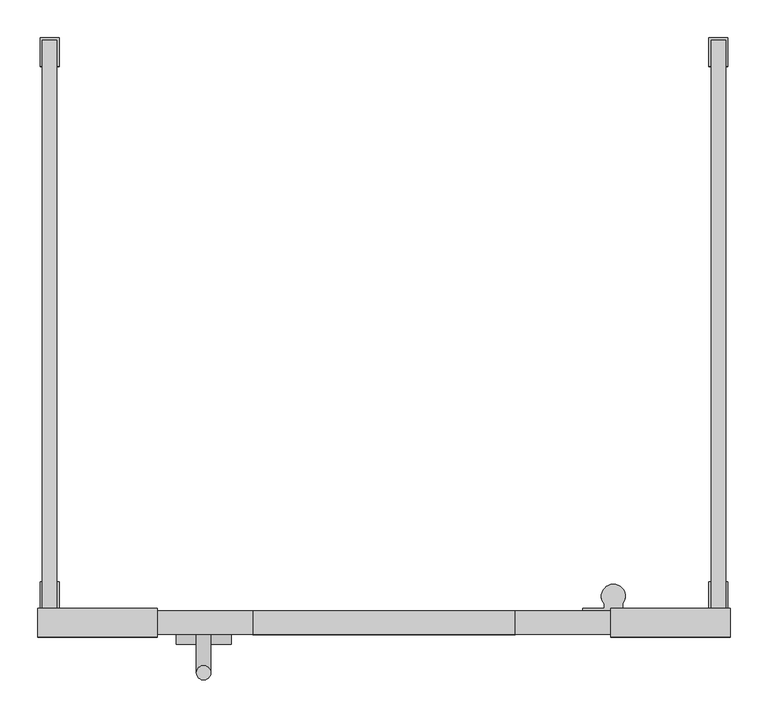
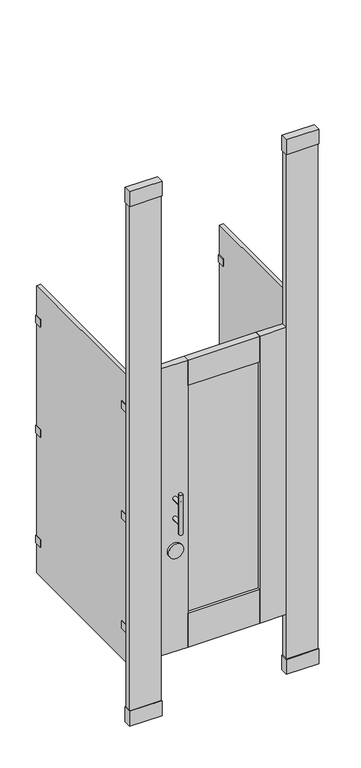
"""IFC4 building model written with IfcOpenShell, lengths in millimetres: proxy geometry, Toilet-Partition_Ironwood-Mfg_High-Pressure-Laminate : High Pressure Laminate - Floor to Ceiling - Captured Panel Door."""

from ifc_helpers import new_model, si_unit, point, frame, frame_2d, origin, origin_with_axes, place, context, project, spatial, polyline, circle_curve, ellipse_curve, trimmed, segment, composite_curve, outline, extrude, source, transform, mapped, element, save
from ifc_brep_helpers import plane_surface, cylinder_surface, advanced_brep


def specialty_equipment_d96a6f38(model_context):
    return source(origin(), model_context, "Body", "SolidModel", [
        extrude(outline(polyline([(542.925, -796.925), (542.925, -758.825), (701.675, -758.825), (701.675, -796.925), (542.925, -796.925)])), frame((0.0, 0.0, 2667.0), z_axis=(0.0, 0.0, 1.0), x_axis=(1.0, 0.0, 0.0)), (0.0, 0.0, 1.0), 76.1999999),
        extrude(outline(polyline([(701.675, -758.825), (701.675, -796.925), (542.925, -796.925), (542.925, -758.825), (701.675, -758.825)])), origin_with_axes(), (0.0, 0.0, 1.0), 76.2),
        extrude(outline(polyline([(698.5, -762.0), (698.5, -793.75), (546.1, -793.75), (546.1, -762.0), (698.5, -762.0)])), origin_with_axes(), (0.0, 0.0, 1.0), 2667.0),
        extrude(outline(polyline([(-60.325, -796.925), (-219.075, -796.925), (-219.075, -758.825), (-60.325, -758.825), (-60.325, -796.925)])), frame((0.0, 0.0, 2667.0), z_axis=(0.0, 0.0, 1.0), x_axis=(1.0, 0.0, 0.0)), (0.0, 0.0, 1.0), 76.1999999),
        extrude(outline(polyline([(-219.075, -758.825), (-60.325, -758.825), (-60.325, -796.925), (-219.075, -796.925), (-219.075, -758.825)])), origin_with_axes(), (0.0, 0.0, 1.0), 76.2),
        extrude(outline(polyline([(-215.9, -762.0), (-63.5, -762.0), (-63.5, -793.75), (-215.9, -793.75), (-215.9, -762.0)])), origin_with_axes(), (0.0, 0.0, 1.0), 2667.0),
        extrude(outline(polyline([(415.925, -781.1988281), (66.675, -781.1988281), (66.675, -774.5511719), (415.925, -774.5511719), (415.925, -781.1988281)])), frame((0.0, 0.0, 479.425), z_axis=(0.0, 0.0, 1.0), x_axis=(1.0, 0.0, 0.0)), (0.0, 0.0, 1.0), 1168.4),
        extrude(outline(polyline([(66.675, -762.0), (66.675, -793.75), (-63.5, -793.75), (-63.5, -762.0), (66.675, -762.0)])), frame((0.0, 0.0, 304.8), z_axis=(0.0, 0.0, 1.0), x_axis=(1.0, 0.0, 0.0)), (0.0, 0.0, 1.0), 1473.2),
        extrude(outline(polyline([(415.925, -762.0), (546.1, -762.0), (546.1, -793.75), (415.925, -793.75), (415.925, -762.0)])), frame((0.0, 0.0, 304.8), z_axis=(0.0, 0.0, 1.0), x_axis=(1.0, 0.0, 0.0)), (0.0, 0.0, 1.0), 1473.2),
        extrude(outline(polyline([(415.925, -762.0), (415.925, -793.75), (66.675, -793.75), (66.675, -762.0), (415.925, -762.0)])), frame((0.0, 0.0, 1647.825), z_axis=(0.0, 0.0, 1.0), x_axis=(1.0, 0.0, 0.0)), (0.0, 0.0, 1.0), 130.175),
        extrude(outline(polyline([(415.925, -762.0), (415.925, -793.75), (66.675, -793.75), (66.675, -762.0), (415.925, -762.0)])), frame((0.0, 0.0, 304.8), z_axis=(0.0, 0.0, 1.0), x_axis=(1.0, 0.0, 0.0)), (0.0, 0.0, 1.0), 174.625),
        extrude(outline(composite_curve([segment(trimmed(circle_curve(frame_2d((827.0875, 1.5875)), 36.5125), [point((827.0875, -34.925))], [point((827.0875, 38.1))], False, "CARTESIAN"), True, "CONTINUOUS"), segment(trimmed(circle_curve(frame_2d((827.0875, 1.5875)), 36.5125), [point((827.0875, 38.1))], [point((827.0875, -34.925))], False, "CARTESIAN"), True, "CONTINUOUS")], self_intersect=False)), frame((0.0, -806.45, 0.0), z_axis=(0.0, 1.0, 0.0), x_axis=(0.0, 0.0, 1.0)), (0.0, 0.0, 1.0), 12.7),
        advanced_brep(
        [(-7.9375, -793.75, 1092.2), (11.1125, -793.75, 1092.2), (-7.9375, -793.75, 990.6), (11.1125, -793.75, 990.6), (11.1125, -844.55, 1092.2), (-7.9375, -844.55, 1092.2), (11.1125, -844.55, 990.6), (-7.9375, -844.55, 990.6), (-7.9375, -844.55, 1143.0), (11.1125, -844.55, 1143.0), (-7.9375, -844.55, 939.8), (11.1125, -844.55, 939.8)],
        [
            (0, 1, circle_curve(frame((1.5875, -793.75, 1092.2), z_axis=(0.0, 1.0, 0.0), x_axis=(1.0, 0.0, 0.0)), 9.525)),
            (1, 0, circle_curve(frame((1.5875, -793.75, 1092.2), z_axis=(0.0, 1.0, 0.0), x_axis=(1.0, 0.0, 0.0)), 9.525)),
            (2, 3, circle_curve(frame((1.5875, -793.75, 990.6), z_axis=(0.0, 1.0, 0.0), x_axis=(1.0, 0.0, 0.0)), 9.525)),
            (3, 2, circle_curve(frame((1.5875, -793.75, 990.6), z_axis=(0.0, 1.0, 0.0), x_axis=(1.0, 0.0, 0.0)), 9.525)),
            (1, 4),
            (4, 5, ellipse_curve(frame((1.5875, -844.55, 1092.2), z_axis=(0.0, 0.7071067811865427, 0.7071067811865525), x_axis=(0.0, -0.7071067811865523, 0.7071067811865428)), 13.4703842, 9.525)),
            (5, 0),
            (5, 4, ellipse_curve(frame((1.5875, -844.55, 1092.2), z_axis=(0.0, 0.7071067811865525, -0.7071067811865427), x_axis=(0.0, -0.7071067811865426, -0.7071067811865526)), 13.4703842, 9.525)),
            (3, 6),
            (6, 7, ellipse_curve(frame((1.5875, -844.55, 990.6), z_axis=(0.0, 0.7071067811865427, 0.7071067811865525), x_axis=(0.0, -0.7071067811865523, 0.7071067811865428)), 13.4703842, 9.525)),
            (7, 2),
            (7, 6, ellipse_curve(frame((1.5875, -844.55, 990.6), z_axis=(0.0, 0.7071067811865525, -0.7071067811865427), x_axis=(0.0, -0.7071067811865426, -0.7071067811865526)), 13.4703842, 9.525)),
            (8, 9, circle_curve(frame((1.5875, -844.55, 1143.0), z_axis=(0.0, 0.0, 1.0), x_axis=(1.0, 0.0, 0.0)), 9.525)),
            (9, 8, circle_curve(frame((1.5875, -844.55, 1143.0), z_axis=(0.0, 0.0, 1.0), x_axis=(1.0, 0.0, 0.0)), 9.525)),
            (10, 11, circle_curve(frame((1.5875, -844.55, 939.8), z_axis=(0.0, 0.0, -1.0), x_axis=(1.0, 0.0, 0.0)), 9.525)),
            (11, 10, circle_curve(frame((1.5875, -844.55, 939.8), z_axis=(0.0, 0.0, -1.0), x_axis=(1.0, 0.0, 0.0)), 9.525)),
            (8, 5),
            (5, 7),
            (7, 10),
            (11, 6),
            (6, 4),
            (4, 9),
        ],
        [
            plane_surface(frame((11.1125, -793.75, 1092.2), z_axis=(0.0, 1.0, 0.0), x_axis=(0.0, 0.0, -1.0))),
            cylinder_surface(frame((1.5875, -793.75, 1092.2), z_axis=(0.0, -1.0, 0.0), x_axis=(1.0, 0.0, 0.0)), 9.525),
            cylinder_surface(frame((1.5875, -793.75, 990.6), z_axis=(0.0, -1.0, 0.0), x_axis=(1.0, 0.0, 0.0)), 9.525),
            plane_surface(frame((11.1125, -844.55, 1143.0), z_axis=(0.0, 0.0, 1.0), x_axis=(0.0, 1.0, 0.0))),
            plane_surface(frame((11.1125, -844.55, 939.8), z_axis=(0.0, 0.0, -1.0), x_axis=(0.0, -1.0, 0.0))),
            cylinder_surface(frame((1.5875, -844.55, 939.8), z_axis=(0.0, 0.0, 1.0), x_axis=(1.0, 0.0, 0.0)), 9.525),
        ],
        [
            (0, [[1, 2]]),
            (0, [[3, 4]]),
            (1, [[-2, 5, 6, 7]]),
            (1, [[-1, -7, 8, -5]]),
            (2, [[-4, 9, 10, 11]]),
            (2, [[-3, -11, 12, -9]]),
            (3, [[13, 14]]),
            (4, [[15, 16]]),
            (5, [[-13, 17, 18, 19, -16, 20, 21, 22]]),
            (5, [[-14, -22, -8, -17]]),
            (5, [[-15, -19, -10, -20]]),
            (5, [[-18, -6, -21, -12]]),
        ],
    ),
        extrude(outline(composite_curve([segment(polyline([(581.3737081, -762.0), (505.1737081, -762.0), (505.1737081, -758.825), (533.7487081, -758.825), (533.7487081, -752.9581331)]), True, "CONTINUOUS"), segment(trimmed(circle_curve(frame_2d((546.1, -742.8902139)), 15.9347861), [point((533.7487081, -752.9581331))], [point((558.4512919, -752.9581331))], False, "CARTESIAN"), True, "CONTINUOUS"), segment(polyline([(558.4512919, -752.9581331), (558.4512919, -758.825), (581.3737081, -758.825), (581.3737081, -762.0)]), True, "CONTINUOUS")], self_intersect=False)), frame((0.0, 0.0, 1574.8), z_axis=(0.0, 0.0, 1.0), x_axis=(1.0, 0.0, 0.0)), (0.0, 0.0, 1.0), 63.5),
        extrude(outline(composite_curve([segment(polyline([(581.3737081, -762.0), (505.1737081, -762.0), (505.1737081, -758.825), (533.7487081, -758.825), (533.7487081, -752.9581331)]), True, "CONTINUOUS"), segment(trimmed(circle_curve(frame_2d((546.1, -742.8902139)), 15.9347861), [point((533.7487081, -752.9581331))], [point((558.4512919, -752.9581331))], False, "CARTESIAN"), True, "CONTINUOUS"), segment(polyline([(558.4512919, -752.9581331), (558.4512919, -758.825), (581.3737081, -758.825), (581.3737081, -762.0)]), True, "CONTINUOUS")], self_intersect=False)), frame((0.0, 0.0, 1009.6500001), z_axis=(0.0, 0.0, 1.0), x_axis=(1.0, 0.0, 0.0)), (0.0, 0.0, 1.0), 63.5),
        extrude(outline(composite_curve([segment(polyline([(581.3737081, -762.0), (505.1737081, -762.0), (505.1737081, -758.825), (533.7487081, -758.825), (533.7487081, -752.9581331)]), True, "CONTINUOUS"), segment(trimmed(circle_curve(frame_2d((546.1, -742.8902139)), 15.9347861), [point((533.7487081, -752.9581331))], [point((558.4512919, -752.9581331))], False, "CARTESIAN"), True, "CONTINUOUS"), segment(polyline([(558.4512919, -752.9581331), (558.4512919, -758.825), (581.3737081, -758.825), (581.3737081, -762.0)]), True, "CONTINUOUS")], self_intersect=False)), frame((0.0, 0.0, 444.5), z_axis=(0.0, 0.0, 1.0), x_axis=(1.0, 0.0, 0.0)), (0.0, 0.0, 1.0), 63.5),
        extrude(outline(polyline([(676.148, -723.9), (676.148, -758.825), (695.198, -758.825), (695.198, -723.9), (698.373, -723.9), (698.373, -762.0), (672.973, -762.0), (672.973, -723.9), (676.148, -723.9)])), frame((0.0, 0.0, 1587.8188137), z_axis=(0.0, 0.0, 1.0), x_axis=(1.0, 0.0, 0.0)), (0.0, 0.0, 1.0), 38.1),
        extrude(outline(polyline([(676.148, -38.1), (672.973, -38.1), (672.973, 0.0), (698.373, 0.0), (698.373, -38.1), (695.198, -38.1), (695.198, -3.175), (676.148, -3.175), (676.148, -38.1)])), frame((0.0, 0.0, 1587.8188137), z_axis=(0.0, 0.0, 1.0), x_axis=(1.0, 0.0, 0.0)), (0.0, 0.0, 1.0), 38.1),
        extrude(outline(polyline([(676.148, -723.9), (676.148, -758.825), (695.198, -758.825), (695.198, -723.9), (698.373, -723.9), (698.373, -762.0), (672.973, -762.0), (672.973, -723.9), (676.148, -723.9)])), frame((0.0, 0.0, 1022.35), z_axis=(0.0, 0.0, 1.0), x_axis=(1.0, 0.0, 0.0)), (0.0, 0.0, 1.0), 38.1),
        extrude(outline(polyline([(676.148, -38.1), (672.973, -38.1), (672.973, 0.0), (698.373, 0.0), (698.373, -38.1), (695.198, -38.1), (695.198, -3.175), (676.148, -3.175), (676.148, -38.1)])), frame((0.0, 0.0, 1022.35), z_axis=(0.0, 0.0, 1.0), x_axis=(1.0, 0.0, 0.0)), (0.0, 0.0, 1.0), 38.1),
        extrude(outline(polyline([(676.148, -723.9), (676.148, -758.825), (695.198, -758.825), (695.198, -723.9), (698.373, -723.9), (698.373, -762.0), (672.973, -762.0), (672.973, -723.9), (676.148, -723.9)])), frame((0.0, 0.0, 457.2), z_axis=(0.0, 0.0, 1.0), x_axis=(1.0, 0.0, 0.0)), (0.0, 0.0, 1.0), 38.1),
        extrude(outline(polyline([(676.148, -38.1), (672.973, -38.1), (672.973, 0.0), (698.373, 0.0), (698.373, -38.1), (695.198, -38.1), (695.198, -3.175), (676.148, -3.175), (676.148, -38.1)])), frame((0.0, 0.0, 457.2), z_axis=(0.0, 0.0, 1.0), x_axis=(1.0, 0.0, 0.0)), (0.0, 0.0, 1.0), 38.1),
        extrude(outline(polyline([(-212.598, -723.9), (-212.598, -758.825), (-193.548, -758.825), (-193.548, -723.9), (-190.373, -723.9), (-190.373, -762.0), (-215.773, -762.0), (-215.773, -723.9), (-212.598, -723.9)])), frame((0.0, 0.0, 1587.8188137), z_axis=(0.0, 0.0, 1.0), x_axis=(1.0, 0.0, 0.0)), (0.0, 0.0, 1.0), 38.1),
        extrude(outline(polyline([(-212.598, -38.1), (-215.773, -38.1), (-215.773, 0.0), (-190.373, 0.0), (-190.373, -38.1), (-193.548, -38.1), (-193.548, -3.175), (-212.598, -3.175), (-212.598, -38.1)])), frame((0.0, 0.0, 1587.8188137), z_axis=(0.0, 0.0, 1.0), x_axis=(1.0, 0.0, 0.0)), (0.0, 0.0, 1.0), 38.1),
        extrude(outline(polyline([(-212.598, -723.9), (-212.598, -758.825), (-193.548, -758.825), (-193.548, -723.9), (-190.373, -723.9), (-190.373, -762.0), (-215.773, -762.0), (-215.773, -723.9), (-212.598, -723.9)])), frame((0.0, 0.0, 1022.35), z_axis=(0.0, 0.0, 1.0), x_axis=(1.0, 0.0, 0.0)), (0.0, 0.0, 1.0), 38.1),
        extrude(outline(polyline([(-212.598, -38.1), (-215.773, -38.1), (-215.773, 0.0), (-190.373, 0.0), (-190.373, -38.1), (-193.548, -38.1), (-193.548, -3.175), (-212.598, -3.175), (-212.598, -38.1)])), frame((0.0, 0.0, 1022.35), z_axis=(0.0, 0.0, 1.0), x_axis=(1.0, 0.0, 0.0)), (0.0, 0.0, 1.0), 38.1),
        extrude(outline(polyline([(-212.598, -723.9), (-212.598, -758.825), (-193.548, -758.825), (-193.548, -723.9), (-190.373, -723.9), (-190.373, -762.0), (-215.773, -762.0), (-215.773, -723.9), (-212.598, -723.9)])), frame((0.0, 0.0, 457.2), z_axis=(0.0, 0.0, 1.0), x_axis=(1.0, 0.0, 0.0)), (0.0, 0.0, 1.0), 38.1),
        extrude(outline(polyline([(-212.598, -38.1), (-215.773, -38.1), (-215.773, 0.0), (-190.373, 0.0), (-190.373, -38.1), (-193.548, -38.1), (-193.548, -3.175), (-212.598, -3.175), (-212.598, -38.1)])), frame((0.0, 0.0, 457.2), z_axis=(0.0, 0.0, 1.0), x_axis=(1.0, 0.0, 0.0)), (0.0, 0.0, 1.0), 38.1),
        extrude(outline(polyline([(-193.548, -3.175), (-193.548, -758.825), (-212.598, -758.825), (-212.598, -3.175), (-193.548, -3.175)])), frame((0.0, 0.0, 304.8), z_axis=(0.0, 0.0, 1.0), x_axis=(1.0, 0.0, 0.0)), (0.0, 0.0, 1.0), 1473.2),
        extrude(outline(polyline([(695.198, -3.175), (695.198, -758.825), (676.148, -758.825), (676.148, -3.175), (695.198, -3.175)])), frame((0.0, 0.0, 304.8), z_axis=(0.0, 0.0, 1.0), x_axis=(1.0, 0.0, 0.0)), (0.0, 0.0, 1.0), 1473.2),
    ])


if __name__ == "__main__":
    model = new_model("IFC4")
    model_context = context("Model", 3, world=origin())
    ifc_project = project(units=[si_unit("LENGTHUNIT", "METRE", prefix="MILLI")], contexts=[model_context])
    site = spatial("IfcSite", under=ifc_project)
    building = spatial("IfcBuilding", under=site)
    placement = place(None, origin())
    specialty_equipment_shape = specialty_equipment_d96a6f38(model_context)
    element("IfcBuildingElementProxy", 1, Name="Toilet-Partition_Ironwood-Mfg_High-Pressure-Laminate : High Pressure Laminate - Floor to Ceiling - Captured Panel Door", ObjectType="Toilet-Partition_Ironwood-Mfg_High-Pressure-Laminate : High Pressure Laminate - Floor to Ceiling - Captured Panel Door", at=placement, inside=building, context=model_context, shape_type="MappedRepresentation", body=[
        mapped(specialty_equipment_shape, transform((0.0, 0.0, 0.0), x_axis=(1.0, 0.0, 0.0), y_axis=(0.0, 1.0, 0.0), z_axis=(0.0, 0.0, 1.0))),
    ])
    save(model, "model.ifc")
